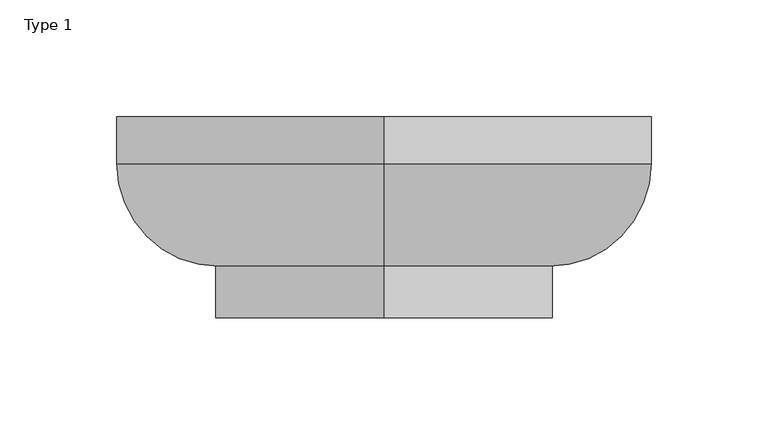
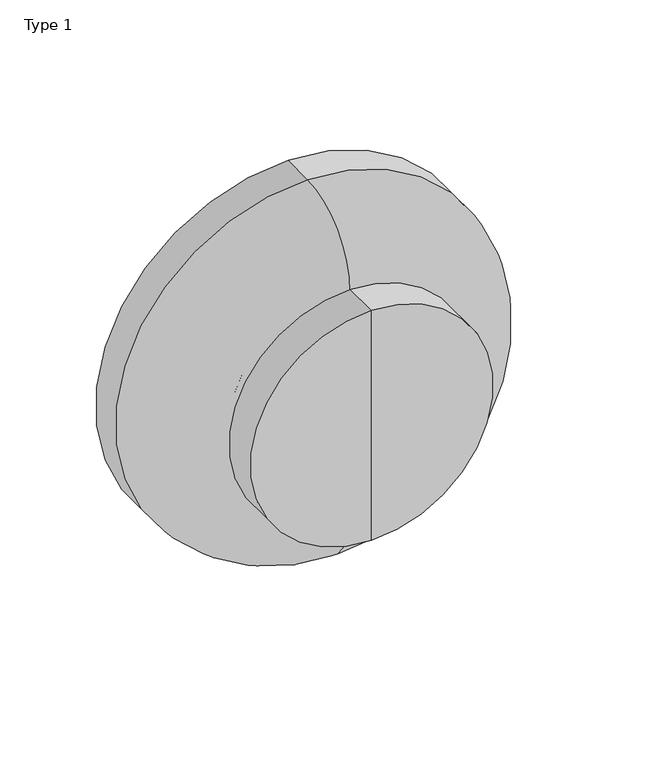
"""IFC4 building model written with IfcOpenShell, lengths in millimetres: light fixture geometry, Nuura - Blossi - Wall : Type 1."""

from ifc_helpers import new_model, si_unit, point, frame, frame_2d, origin, place, context, project, spatial, polyline, circle_curve, ellipse_curve, trimmed, segment, composite_curve, outline, extrude, source, transform, mapped, element, save
from ifc_brep_helpers import plane_surface, cylinder_surface, revolved_surface, advanced_brep


def type_1_cf90a4b9(model_context):
    return source(origin(), model_context, "Body", "SolidModel", [
        extrude(outline(composite_curve([segment(trimmed(circle_curve(frame_2d((800.0, 125.0)), 5.83629), [point((800.0, 130.83629))], [point((800.0, 119.16371))], False, "CARTESIAN"), True, "CONTINUOUS"), segment(trimmed(circle_curve(frame_2d((800.0, 125.0)), 5.83629), [point((800.0, 119.16371))], [point((800.0, 130.83629))], False, "CARTESIAN"), True, "CONTINUOUS")], self_intersect=False)), frame((0.0, 106.0, 0.0), z_axis=(0.0, 1.0, 0.0), x_axis=(0.0, 0.0, 1.0)), (0.0, 0.0, 1.0), 33.5),
        advanced_brep(
        [(125.0, 161.0038686, 685.0013857), (125.0, 161.0038686, 914.9986143), (125.0, 141.0, 914.9986143), (125.0, 141.0, 685.0013857), (125.0, 161.0038686, 688.0013857), (125.0, 161.0038686, 911.9986143), (125.0, 140.0, 688.0013857), (125.0, 140.0, 911.9986143), (125.0, 100.0, 728.0013857), (125.0, 100.0, 871.9986143), (125.0, 100.0, 800.0), (125.0, 93.0, 734.5), (125.0, 93.0, 865.5), (125.0, 93.0, 800.0), (125.0, 97.0, 734.5), (125.0, 97.0, 865.5), (125.0, 97.0, 729.0013857), (125.0, 97.0, 870.9986143)],
        [
            (0, 1, circle_curve(frame((125.0, 161.0038686, 800.0), z_axis=(0.0, -1.0, 0.0), x_axis=(0.0, 0.0, 1.0)), 114.9986143)),
            (1, 2),
            (2, 3, circle_curve(frame((125.0, 141.0, 800.0), z_axis=(0.0, 1.0, 0.0), x_axis=(0.0, 0.0, 1.0)), 114.9986143)),
            (3, 0),
            (1, 0, circle_curve(frame((125.0, 161.0038686, 800.0), z_axis=(0.0, -1.0, 0.0), x_axis=(0.0, 0.0, 1.0)), 114.9986143)),
            (3, 2, circle_curve(frame((125.0, 141.0, 800.0), z_axis=(0.0, 1.0, 0.0), x_axis=(0.0, 0.0, 1.0)), 114.9986143)),
            (4, 5, circle_curve(frame((125.0, 161.0038686, 800.0), z_axis=(0.0, -1.0, 0.0), x_axis=(0.0, 0.0, 1.0)), 111.9986143)),
            (5, 1),
            (0, 4),
            (5, 4, circle_curve(frame((125.0, 161.0038686, 800.0), z_axis=(0.0, -1.0, 0.0), x_axis=(0.0, 0.0, 1.0)), 111.9986143)),
            (6, 7, circle_curve(frame((125.0, 140.0, 800.0), z_axis=(0.0, -1.0, 0.0), x_axis=(0.0, 0.0, 1.0)), 111.9986143)),
            (7, 5),
            (4, 6),
            (7, 6, circle_curve(frame((125.0, 140.0, 800.0), z_axis=(0.0, -1.0, 0.0), x_axis=(0.0, 0.0, 1.0)), 111.9986143)),
            (8, 9, circle_curve(frame((125.0, 100.0, 800.0), z_axis=(0.0, -1.0, 0.0), x_axis=(0.0, 0.0, 1.0)), 71.9986143)),
            (9, 7, circle_curve(frame((125.0, 140.0, 871.9986143), z_axis=(-1.0, 0.0, 0.0), x_axis=(0.0, 1.0, 0.0)), 40.0)),
            (6, 8, circle_curve(frame((125.0, 140.0, 728.0013857), z_axis=(-1.0, 0.0, 0.0), x_axis=(0.0, 1.0, 0.0)), 40.0)),
            (9, 8, circle_curve(frame((125.0, 100.0, 800.0), z_axis=(0.0, -1.0, 0.0), x_axis=(0.0, 0.0, 1.0)), 71.9986143)),
            (10, 9),
            (8, 10),
            (11, 12, circle_curve(frame((125.0, 93.0, 800.0), z_axis=(0.0, -1.0, 0.0), x_axis=(0.0, 0.0, 1.0)), 65.5)),
            (12, 13),
            (13, 11),
            (12, 11, circle_curve(frame((125.0, 93.0, 800.0), z_axis=(0.0, -1.0, 0.0), x_axis=(0.0, 0.0, 1.0)), 65.5)),
            (14, 15, circle_curve(frame((125.0, 97.0, 800.0), z_axis=(0.0, -1.0, 0.0), x_axis=(0.0, 0.0, 1.0)), 65.5)),
            (15, 12),
            (11, 14),
            (15, 14, circle_curve(frame((125.0, 97.0, 800.0), z_axis=(0.0, -1.0, 0.0), x_axis=(0.0, 0.0, 1.0)), 65.5)),
            (16, 17, circle_curve(frame((125.0, 97.0, 800.0), z_axis=(0.0, -1.0, 0.0), x_axis=(0.0, 0.0, 1.0)), 70.9986143)),
            (17, 15),
            (14, 16),
            (17, 16, circle_curve(frame((125.0, 97.0, 800.0), z_axis=(0.0, -1.0, 0.0), x_axis=(0.0, 0.0, 1.0)), 70.9986143)),
            (2, 17, circle_curve(frame((125.0, 141.0, 870.9986143), z_axis=(1.0, 0.0, 0.0), x_axis=(0.0, 1.0, 0.0)), 44.0)),
            (16, 3, circle_curve(frame((125.0, 141.0, 729.0013857), z_axis=(1.0, 0.0, 0.0), x_axis=(0.0, 1.0, 0.0)), 44.0)),
        ],
        [
            cylinder_surface(frame((125.0, 75.0, 800.0), z_axis=(0.0, 1.0, 0.0), x_axis=(0.0, 0.0, 1.0)), 114.9986143),
            plane_surface(frame((125.0, 161.0038686, 800.0), z_axis=(0.0, 1.0, 0.0), x_axis=(0.0, 0.0, 1.0))),
            revolved_surface(polyline([(125.0, 161.0038686, 911.9986143), (125.0, 140.0, 911.9986143)]), (125.0, 75.0, 800.0), (0.0, 1.0, 0.0)),
            revolved_surface(trimmed(ellipse_curve(frame((125.0, 140.0, 871.9986143), z_axis=(1.0, 0.0, 0.0), x_axis=(0.0, 1.0, 0.0)), 40.0, 40.0), [point((125.0, 140.0, 911.9986143))], [point((125.0, 100.0, 871.9986143))], True, "CARTESIAN"), (125.0, 75.0, 800.0), (0.0, 1.0, 0.0)),
            plane_surface(frame((125.0, 100.0, 800.0), z_axis=(0.0, 1.0, 0.0), x_axis=(0.0, 0.0, 1.0))),
            plane_surface(frame((125.0, 93.0, 800.0), z_axis=(0.0, -1.0, 0.0), x_axis=(0.0, 0.0, 1.0))),
            cylinder_surface(frame((125.0, 75.0, 800.0), z_axis=(0.0, 1.0, 0.0), x_axis=(0.0, 0.0, 1.0)), 65.5),
            plane_surface(frame((125.0, 97.0, 800.0), z_axis=(0.0, -1.0, 0.0), x_axis=(0.0, 0.0, 1.0))),
            revolved_surface(trimmed(ellipse_curve(frame((125.0, 141.0, 870.9986143), z_axis=(-1.0, 0.0, 0.0), x_axis=(0.0, 1.0, 0.0)), 44.0, 44.0), [point((125.0, 97.0, 870.9986143))], [point((125.0, 141.0, 914.9986143))], True, "CARTESIAN"), (125.0, 75.0, 800.0), (0.0, 1.0, 0.0)),
        ],
        [
            (0, [[1, 2, 3, 4]]),
            (0, [[5, -4, 6, -2]]),
            (1, [[7, 8, -1, 9]]),
            (1, [[10, -9, -5, -8]]),
            (2, [[11, 12, -7, 13]]),
            (2, [[14, -13, -10, -12]]),
            (3, [[15, 16, -11, 17]]),
            (3, [[18, -17, -14, -16]]),
            (4, [[19, -15, 20]]),
            (4, [[-20, -18, -19]]),
            (5, [[21, 22, 23]]),
            (5, [[24, -23, -22]]),
            (6, [[25, 26, -21, 27]]),
            (6, [[28, -27, -24, -26]]),
            (7, [[29, 30, -25, 31]]),
            (7, [[32, -31, -28, -30]]),
            (8, [[-3, 33, -29, 34]]),
            (8, [[-6, -34, -32, -33]]),
        ],
    ),
        advanced_brep(
        [(125.0, 97.0, 727.5), (125.0, 97.0, 872.5), (125.0, 75.0, 872.5), (125.0, 75.0, 727.5), (125.0, 97.0, 734.5), (125.0, 97.0, 865.5), (125.0, 93.0, 734.5), (125.0, 93.0, 865.5), (125.0, 93.0, 800.0), (125.0, 75.0, 800.0)],
        [
            (0, 1, circle_curve(frame((125.0, 97.0, 800.0), z_axis=(0.0, -1.0, 0.0), x_axis=(0.0, 0.0, 1.0)), 72.5)),
            (1, 2),
            (2, 3, circle_curve(frame((125.0, 75.0, 800.0), z_axis=(0.0, 1.0, 0.0), x_axis=(0.0, 0.0, 1.0)), 72.5)),
            (3, 0),
            (1, 0, circle_curve(frame((125.0, 97.0, 800.0), z_axis=(0.0, -1.0, 0.0), x_axis=(0.0, 0.0, 1.0)), 72.5)),
            (3, 2, circle_curve(frame((125.0, 75.0, 800.0), z_axis=(0.0, 1.0, 0.0), x_axis=(0.0, 0.0, 1.0)), 72.5)),
            (4, 5, circle_curve(frame((125.0, 97.0, 800.0), z_axis=(0.0, -1.0, 0.0), x_axis=(0.0, 0.0, 1.0)), 65.5)),
            (5, 1),
            (0, 4),
            (5, 4, circle_curve(frame((125.0, 97.0, 800.0), z_axis=(0.0, -1.0, 0.0), x_axis=(0.0, 0.0, 1.0)), 65.5)),
            (6, 7, circle_curve(frame((125.0, 93.0, 800.0), z_axis=(0.0, -1.0, 0.0), x_axis=(0.0, 0.0, 1.0)), 65.5)),
            (7, 5),
            (4, 6),
            (7, 6, circle_curve(frame((125.0, 93.0, 800.0), z_axis=(0.0, -1.0, 0.0), x_axis=(0.0, 0.0, 1.0)), 65.5)),
            (8, 7),
            (6, 8),
            (2, 9),
            (9, 3),
        ],
        [
            cylinder_surface(frame((125.0, 75.0, 800.0), z_axis=(0.0, 1.0, 0.0), x_axis=(0.0, 0.0, 1.0)), 72.5),
            plane_surface(frame((125.0, 97.0, 800.0), z_axis=(0.0, 1.0, 0.0), x_axis=(0.0, 0.0, 1.0))),
            revolved_surface(polyline([(125.0, 97.0, 865.5), (125.0, 93.0, 865.5)]), (125.0, 75.0, 800.0), (0.0, 1.0, 0.0)),
            plane_surface(frame((125.0, 93.0, 800.0), z_axis=(0.0, 1.0, 0.0), x_axis=(0.0, 0.0, 1.0))),
            plane_surface(frame((125.0, 75.0, 800.0), z_axis=(0.0, -1.0, 0.0), x_axis=(0.0, 0.0, 1.0))),
        ],
        [
            (0, [[1, 2, 3, 4]]),
            (0, [[5, -4, 6, -2]]),
            (1, [[7, 8, -1, 9]]),
            (1, [[10, -9, -5, -8]]),
            (2, [[11, 12, -7, 13]]),
            (2, [[14, -13, -10, -12]]),
            (3, [[15, -11, 16]]),
            (3, [[-16, -14, -15]]),
            (4, [[-3, 17, 18]]),
            (4, [[-6, -18, -17]]),
        ],
    ),
        advanced_brep(
        [(125.0, 100.0, 728.5013857), (125.0, 100.0, 871.4986143), (125.0, 100.0, 800.0), (125.0, 101.0, 728.5013857), (125.0, 101.0, 871.4986143), (125.0, 106.0, 733.5013857), (125.0, 106.0, 866.4986143), (125.0, 106.0, 800.0)],
        [
            (0, 1, circle_curve(frame((125.0, 100.0, 800.0), z_axis=(0.0, -1.0, 0.0), x_axis=(0.0, 0.0, 1.0)), 71.4986143)),
            (1, 2),
            (2, 0),
            (1, 0, circle_curve(frame((125.0, 100.0, 800.0), z_axis=(0.0, -1.0, 0.0), x_axis=(0.0, 0.0, 1.0)), 71.4986143)),
            (3, 4, circle_curve(frame((125.0, 101.0, 800.0), z_axis=(0.0, -1.0, 0.0), x_axis=(0.0, 0.0, 1.0)), 71.4986143)),
            (4, 1),
            (0, 3),
            (4, 3, circle_curve(frame((125.0, 101.0, 800.0), z_axis=(0.0, -1.0, 0.0), x_axis=(0.0, 0.0, 1.0)), 71.4986143)),
            (5, 6, circle_curve(frame((125.0, 106.0, 800.0), z_axis=(0.0, -1.0, 0.0), x_axis=(0.0, 0.0, 1.0)), 66.4986143)),
            (6, 4, circle_curve(frame((125.0, 101.0, 866.4986143), z_axis=(1.0, 0.0, 0.0), x_axis=(0.0, 1.0, 0.0)), 5.0)),
            (3, 5, circle_curve(frame((125.0, 101.0, 733.5013857), z_axis=(1.0, 0.0, 0.0), x_axis=(0.0, 1.0, 0.0)), 5.0)),
            (6, 5, circle_curve(frame((125.0, 106.0, 800.0), z_axis=(0.0, -1.0, 0.0), x_axis=(0.0, 0.0, 1.0)), 66.4986143)),
            (7, 6),
            (5, 7),
        ],
        [
            plane_surface(frame((125.0, 100.0, 800.0), z_axis=(0.0, -1.0, 0.0), x_axis=(0.0, 0.0, 1.0))),
            cylinder_surface(frame((125.0, 75.0, 800.0), z_axis=(0.0, 1.0, 0.0), x_axis=(0.0, 0.0, 1.0)), 71.4986143),
            revolved_surface(trimmed(ellipse_curve(frame((125.0, 101.0, 866.4986143), z_axis=(-1.0, 0.0, 0.0), x_axis=(0.0, 1.0, 0.0)), 5.0, 5.0), [point((125.0, 101.0, 871.4986143))], [point((125.0, 106.0, 866.4986143))], True, "CARTESIAN"), (125.0, 75.0, 800.0), (0.0, 1.0, 0.0)),
            plane_surface(frame((125.0, 106.0, 800.0), z_axis=(0.0, 1.0, 0.0), x_axis=(0.0, 0.0, 1.0))),
        ],
        [
            (0, [[1, 2, 3]]),
            (0, [[4, -3, -2]]),
            (1, [[5, 6, -1, 7]]),
            (1, [[8, -7, -4, -6]]),
            (2, [[9, 10, -5, 11]]),
            (2, [[12, -11, -8, -10]]),
            (3, [[13, -9, 14]]),
            (3, [[-14, -12, -13]]),
        ],
    ),
        advanced_brep(
        [(125.0, 139.5, 766.25), (125.0, 139.5, 833.75), (125.0, 139.5, 800.0), (125.0, 146.0477619, 766.25), (125.0, 146.0477619, 833.75), (125.0, 152.5, 772.7022381), (125.0, 152.5, 827.2977619), (125.0, 152.5, 800.0)],
        [
            (0, 1, circle_curve(frame((125.0, 139.5, 800.0), z_axis=(0.0, -1.0, 0.0), x_axis=(0.0, 0.0, 1.0)), 33.75)),
            (1, 2),
            (2, 0),
            (1, 0, circle_curve(frame((125.0, 139.5, 800.0), z_axis=(0.0, -1.0, 0.0), x_axis=(0.0, 0.0, 1.0)), 33.75)),
            (3, 4, circle_curve(frame((125.0, 146.0477619, 800.0), z_axis=(0.0, -1.0, 0.0), x_axis=(0.0, 0.0, 1.0)), 33.75)),
            (4, 1),
            (0, 3),
            (4, 3, circle_curve(frame((125.0, 146.0477619, 800.0), z_axis=(0.0, -1.0, 0.0), x_axis=(0.0, 0.0, 1.0)), 33.75)),
            (5, 6, circle_curve(frame((125.0, 152.5, 800.0), z_axis=(0.0, -1.0, 0.0), x_axis=(0.0, 0.0, 1.0)), 27.2977619)),
            (6, 4, circle_curve(frame((125.0, 146.0477619, 827.2977619), z_axis=(1.0, 0.0, 0.0), x_axis=(0.0, 1.0, 0.0)), 6.4522381)),
            (3, 5, circle_curve(frame((125.0, 146.0477619, 772.7022381), z_axis=(1.0, 0.0, 0.0), x_axis=(0.0, 1.0, 0.0)), 6.4522381)),
            (6, 5, circle_curve(frame((125.0, 152.5, 800.0), z_axis=(0.0, -1.0, 0.0), x_axis=(0.0, 0.0, 1.0)), 27.2977619)),
            (7, 6),
            (5, 7),
        ],
        [
            plane_surface(frame((125.0, 139.5, 800.0), z_axis=(0.0, -1.0, 0.0), x_axis=(0.0, 0.0, 1.0))),
            cylinder_surface(frame((125.0, 75.0, 800.0), z_axis=(0.0, 1.0, 0.0), x_axis=(0.0, 0.0, 1.0)), 33.75),
            revolved_surface(trimmed(ellipse_curve(frame((125.0, 146.0477619, 827.2977619), z_axis=(-1.0, 0.0, 0.0), x_axis=(0.0, 1.0, 0.0)), 6.4522381, 6.4522381), [point((125.0, 146.0477619, 833.75))], [point((125.0, 152.5, 827.2977619))], True, "CARTESIAN"), (125.0, 75.0, 800.0), (0.0, 1.0, 0.0)),
            plane_surface(frame((125.0, 152.5, 800.0), z_axis=(0.0, 1.0, 0.0), x_axis=(0.0, 0.0, 1.0))),
        ],
        [
            (0, [[1, 2, 3]]),
            (0, [[4, -3, -2]]),
            (1, [[5, 6, -1, 7]]),
            (1, [[8, -7, -4, -6]]),
            (2, [[9, 10, -5, 11]]),
            (2, [[12, -11, -8, -10]]),
            (3, [[13, -9, 14]]),
            (3, [[-14, -12, -13]]),
        ],
    ),
    ])


if __name__ == "__main__":
    model = new_model("IFC4")
    model_context = context("Model", 3, world=origin())
    ifc_project = project(units=[si_unit("LENGTHUNIT", "METRE", prefix="MILLI")], contexts=[model_context])
    site = spatial("IfcSite", under=ifc_project)
    building = spatial("IfcBuilding", under=site)
    placement = place(None, origin())
    type_1_shape = type_1_cf90a4b9(model_context)
    element("IfcLightFixture", 1, ObjectType="Nuura - Blossi - Wall : Type 1", at=placement, inside=building, context=model_context, shape_type="MappedRepresentation", body=[
        mapped(type_1_shape, transform((0.0, 0.0, 0.0), x_axis=(1.0, 0.0, 0.0), y_axis=(0.0, 1.0, 0.0), z_axis=(0.0, 0.0, 1.0))),
    ])
    save(model, "model.ifc")
